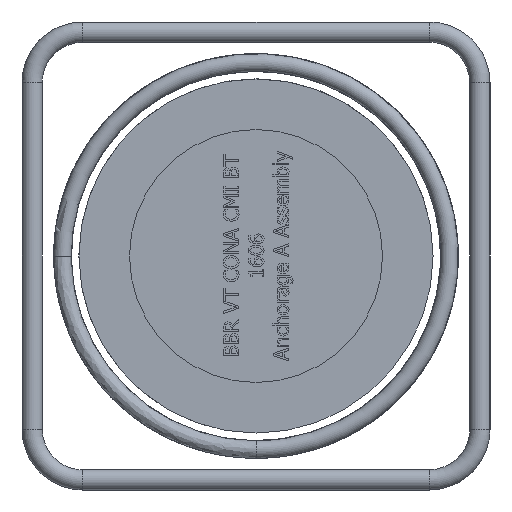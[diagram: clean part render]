
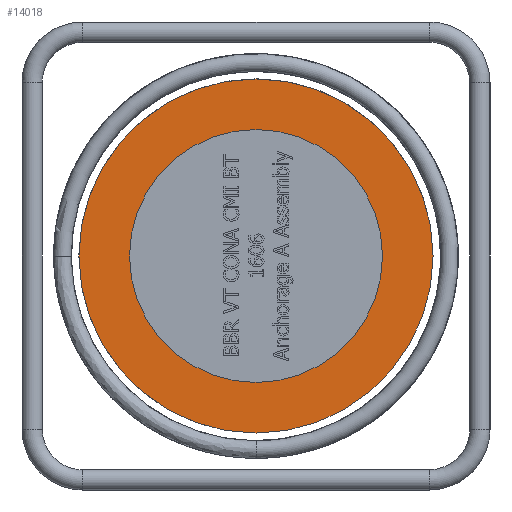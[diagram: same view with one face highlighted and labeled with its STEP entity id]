
A CAD part, left-side view. The second image highlights one B-rep face of the part: STEP entity #14018.
In plain terms, the highlighted planar face has unit normal (-1, 0, 0).
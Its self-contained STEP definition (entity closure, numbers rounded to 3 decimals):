
#3442=PLANE('',#14544);
#3577=FACE_BOUND('',#5159,.T.);
#4296=FACE_OUTER_BOUND('',#5158,.T.);
#5158=EDGE_LOOP('',(#12079));
#5159=EDGE_LOOP('',(#12080));
#5422=CIRCLE('',#14540,100.);
#5425=CIRCLE('',#14545,140.);
#6691=VERTEX_POINT('',#24412);
#6698=VERTEX_POINT('',#24471);
#8520=EDGE_CURVE('',#6691,#6691,#5422,.T.);
#8527=EDGE_CURVE('',#6698,#6698,#5425,.T.);
#12079=ORIENTED_EDGE('',*,*,#8527,.T.);
#12080=ORIENTED_EDGE('',*,*,#8520,.T.);
#14018=ADVANCED_FACE('',(#4296,#3577),#3442,.T.);
#14540=AXIS2_PLACEMENT_3D('',#24413,#16598,#16599);
#14544=AXIS2_PLACEMENT_3D('',#24470,#16607,#16608);
#14545=AXIS2_PLACEMENT_3D('',#24472,#16609,#16610);
#16598=DIRECTION('center_axis',(1.,0.,0.));
#16599=DIRECTION('ref_axis',(0.,0.,
1.));
#16607=DIRECTION('center_axis',(-1.,0.,0.));
#16608=DIRECTION('ref_axis',(0.,1.,0.));
#16609=DIRECTION('center_axis',(-1.,0.,0.));
#16610=DIRECTION('ref_axis',(0.,0.,1.));
#24412=CARTESIAN_POINT('',(-161.995,-100.,0.));
#24413=CARTESIAN_POINT('Origin',(-161.995,0.,
0.));
#24470=CARTESIAN_POINT('Origin',(-161.995,0.,
111.));
#24471=CARTESIAN_POINT('',(-161.995,0.,140.));
#24472=CARTESIAN_POINT('Origin',(-161.995,0.,
0.));
